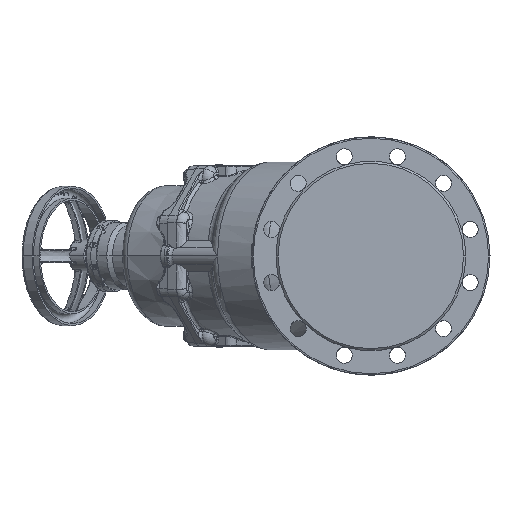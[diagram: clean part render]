
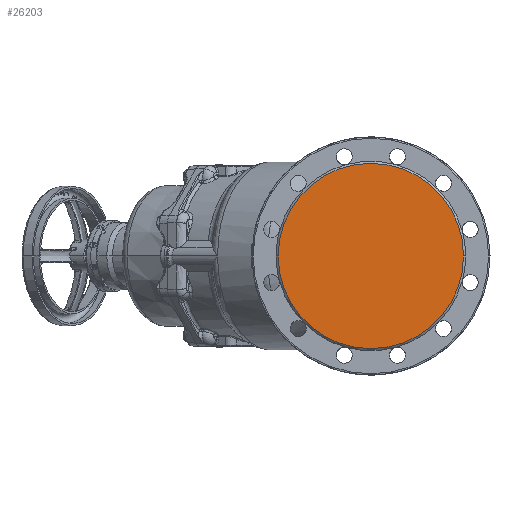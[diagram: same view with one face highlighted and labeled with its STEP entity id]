
A CAD part, left-side view. The second image highlights one B-rep face of the part: STEP entity #26203.
In plain terms, the highlighted planar face has unit normal (-1, 0, 0).
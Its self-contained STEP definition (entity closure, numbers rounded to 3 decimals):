
#23656 = AXIS2_PLACEMENT_3D ( 'NONE', #88381, #55688, #56638 ) ;
#26203 = ADVANCED_FACE ( 'NONE', ( #100708 ), #77788, .F. ) ;
#31980 = EDGE_LOOP ( 'NONE', ( #125643, #132094 ) ) ;
#47626 = CARTESIAN_POINT ( 'NONE',  ( -122.11, 0., 0. ) ) ;
#53044 = DIRECTION ( 'NONE',  ( 0., 1., 0. ) ) ;
#55688 = DIRECTION ( 'NONE',  ( 1., 0., 0. ) ) ;
#56638 = DIRECTION ( 'NONE',  ( 0., 1., 0. ) ) ;
#58385 = VERTEX_POINT ( 'NONE', #103901 ) ;
#60584 = CIRCLE ( 'NONE', #67358, 133. ) ;
#63087 = DIRECTION ( 'NONE',  ( 1., 0., 0. ) ) ;
#67358 = AXIS2_PLACEMENT_3D ( 'NONE', #47626, #70598, #124823 ) ;
#70398 = EDGE_CURVE ( 'NONE', #124309, #58385, #60584, .T. ) ;
#70598 = DIRECTION ( 'NONE',  ( 1., 0., 0. ) ) ;
#73509 = EDGE_CURVE ( 'NONE', #58385, #124309, #132349, .T. ) ;
#77788 = PLANE ( 'NONE',  #23656 ) ;
#83209 = AXIS2_PLACEMENT_3D ( 'NONE', #128330, #63087, #53044 ) ;
#88381 = CARTESIAN_POINT ( 'NONE',  ( -122.11, -133., 0. ) ) ;
#100708 = FACE_OUTER_BOUND ( 'NONE', #31980, .T. ) ;
#103901 = CARTESIAN_POINT ( 'NONE',  ( -122.11, 133., 0. ) ) ;
#124309 = VERTEX_POINT ( 'NONE', #127832 ) ;
#124823 = DIRECTION ( 'NONE',  ( 0., 1., 0. ) ) ;
#125643 = ORIENTED_EDGE ( 'NONE', *, *, #73509, .F. ) ;
#127832 = CARTESIAN_POINT ( 'NONE',  ( -122.11, -133., 0. ) ) ;
#128330 = CARTESIAN_POINT ( 'NONE',  ( -122.11, 0., 0. ) ) ;
#132094 = ORIENTED_EDGE ( 'NONE', *, *, #70398, .F. ) ;
#132349 = CIRCLE ( 'NONE', #83209, 133. ) ;
